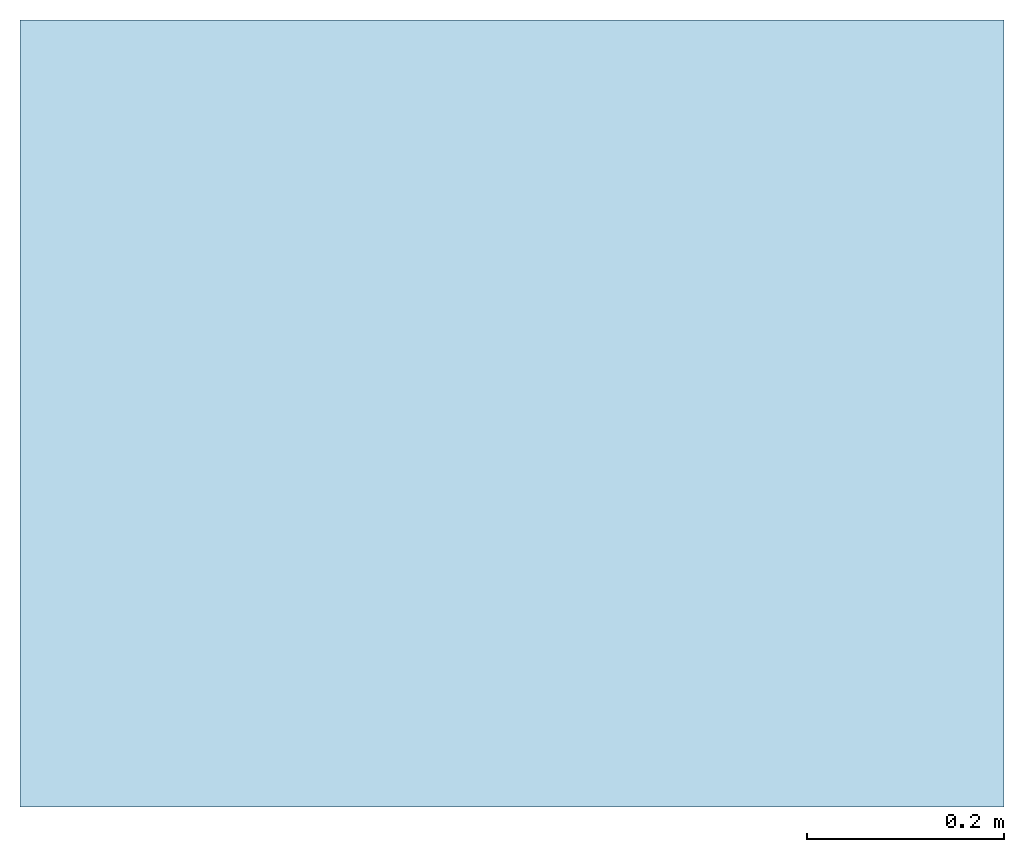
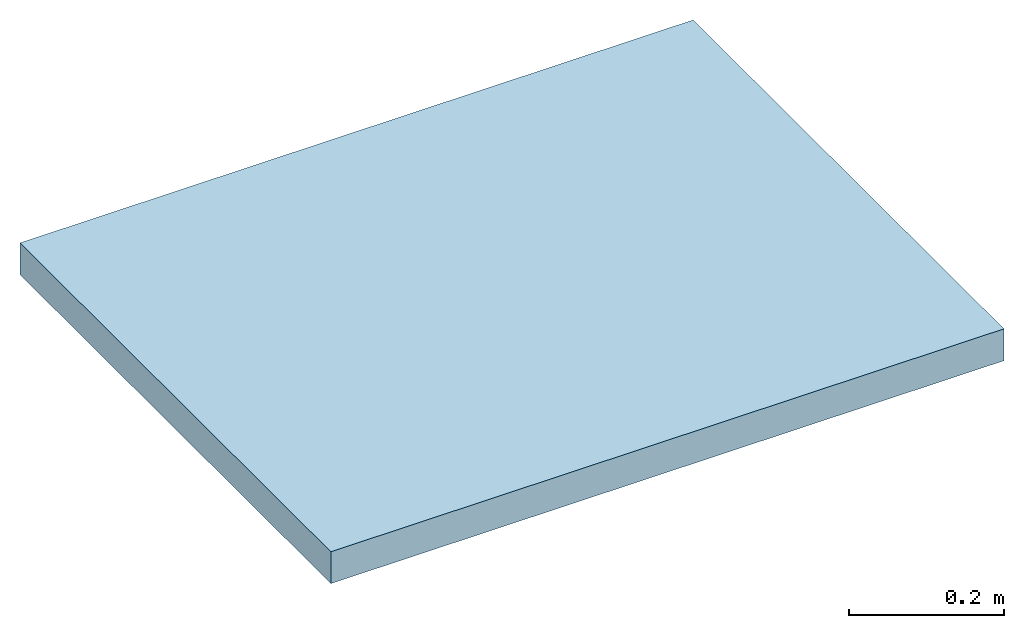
# One storey: 1 slab.
"""IFC2X3 building model written with IfcOpenShell, lengths in millimetres."""

import ifcopenshell
import ifcopenshell.guid

model = None  # the IFC model being written
_history = None  # IfcOwnerHistory: only IFC2X3 demands one
_inside = {}  # id of a spatial element -> (the spatial element, [elements in it])
_under = {}  # id of a project, library or spatial element -> (it, [spatial elements below it])
_declared = {}  # id of a project -> (the project, [libraries it declares])
_typed = {}  # id of a type object -> (the type object, [elements of that type])
_made_of = {}  # id of a material, layer set ... -> (it, [elements and type objects made of it])


def new_model(schema):
    """Start an empty IFC model of exactly this schema.

    Asked for "IFC4X3", IfcOpenShell would pick the latest addendum, in which some entities
    have other attributes; the version numbers below select the first issue.
    IFC2X3 requires an IfcOwnerHistory on every rooted entity: one is made here for all.
    """
    global model, _history
    if schema == "IFC4X3":
        model = ifcopenshell.file(schema_version=(4, 3, 0, 0))
    else:
        model = ifcopenshell.file(schema=schema)
    _inside.clear()
    _under.clear()
    _declared.clear()
    _typed.clear()
    _made_of.clear()
    _history = None
    if model.schema == "IFC2X3":
        org = make("IfcOrganization", Name="unknown")
        user = make(
            "IfcPersonAndOrganization",
            ThePerson=make("IfcPerson", FamilyName="unknown"),
            TheOrganization=org,
        )
        app = make(
            "IfcApplication",
            ApplicationDeveloper=org,
            Version="unknown",
            ApplicationFullName="unknown",
            ApplicationIdentifier="unknown",
        )
        _history = make(
            "IfcOwnerHistory",
            OwningUser=user,
            OwningApplication=app,
            ChangeAction="ADDED",
            CreationDate=0,
        )
    return model


def make(cls, **values):
    """One entity of the class cls with the attributes given. An attribute that is None is left unset."""
    return model.create_entity(
        cls, **{name: value for name, value in values.items() if value is not None}
    )


def entity(cls, *values):
    """Any entity or typed value of the class cls, its attributes in the order of the schema. None: left unset."""
    e = model.create_entity(cls)
    for i, value in enumerate(values):
        if value is not None:
            e[i] = value
    return e


def rooted(cls, **values):
    """An entity with a GlobalId (a new one), such as an element, a storey or a relation."""
    return make(cls, GlobalId=ifcopenshell.guid.new(), OwnerHistory=_history, **values)


def si_unit(unit_type, name, prefix=None):
    """IfcSIUnit, for example si_unit("LENGTHUNIT", "METRE", prefix="MILLI")."""
    return make("IfcSIUnit", UnitType=unit_type, Prefix=prefix, Name=name)


def converted_unit(unit_type, name, factor, base, dimensions=None, offset=None):
    """IfcConversionBasedUnit, such as the inch: factor (a typed value) times the base unit."""
    return make(
        "IfcConversionBasedUnit"
        if offset is None
        else "IfcConversionBasedUnitWithOffset",
        ConversionOffset=offset,
        Dimensions=None
        if dimensions is None
        else entity("IfcDimensionalExponents", *dimensions),
        UnitType=unit_type,
        Name=name,
        ConversionFactor=make(
            "IfcMeasureWithUnit", ValueComponent=factor, UnitComponent=base
        ),
    )


def derived_unit(unit_type, elements):
    """IfcDerivedUnit: a product of units, each with its exponent."""
    return make(
        "IfcDerivedUnit",
        Elements=[
            make("IfcDerivedUnitElement", Unit=unit, Exponent=power)
            for unit, power in elements
        ],
        UnitType=unit_type,
    )


def assignment(units):
    """IfcUnitAssignment: the units of a project."""
    return None if units is None else make("IfcUnitAssignment", Units=units)


def point(xyz):
    """IfcCartesianPoint."""
    return None if xyz is None else make("IfcCartesianPoint", Coordinates=xyz)


def direction(xyz):
    """IfcDirection."""
    return None if xyz is None else make("IfcDirection", DirectionRatios=xyz)


def frame(location, z_axis=None, x_axis=None):
    """IfcAxis2Placement3D, a coordinate frame: its origin and axes. An axis left out is left unset."""
    return make(
        "IfcAxis2Placement3D",
        Location=point(location),
        Axis=direction(z_axis),
        RefDirection=direction(x_axis),
    )


def frame_2d(location, x_axis=None):
    """IfcAxis2Placement2D, a coordinate frame in the plane: its origin and x axis."""
    return make(
        "IfcAxis2Placement2D", Location=point(location), RefDirection=direction(x_axis)
    )


def origin():
    """The frame at (0, 0, 0) with its axes left unset."""
    return frame((0.0, 0.0, 0.0))


def origin_2d_with_axis():
    """The frame at (0, 0) in the plane with the x axis (1, 0) written out."""
    return frame_2d((0.0, 0.0), x_axis=(1.0, 0.0))


def place(relative_to, where):
    """IfcLocalPlacement: puts the frame where relative to a parent placement (None: the world)."""
    return make(
        "IfcLocalPlacement", PlacementRelTo=relative_to, RelativePlacement=where
    )


def context(
    kind, dimensions, precision=None, world=None, true_north=None, identifier=None
):
    """IfcGeometricRepresentationContext, for example the 3D "Model" context."""
    return make(
        "IfcGeometricRepresentationContext",
        ContextIdentifier=identifier,
        ContextType=kind,
        CoordinateSpaceDimension=dimensions,
        Precision=precision,
        WorldCoordinateSystem=world,
        TrueNorth=true_north,
    )


def subcontext(parent, identifier, kind, view, scale=None):
    """IfcGeometricRepresentationSubContext, for example "Body" below "Model"."""
    return make(
        "IfcGeometricRepresentationSubContext",
        ContextIdentifier=identifier,
        ContextType=kind,
        ParentContext=parent,
        TargetScale=scale,
        TargetView=view,
    )


def project(units=None, contexts=None):
    """IfcProject with its units and contexts."""
    return rooted(
        "IfcProject",
        Name="project",
        RepresentationContexts=contexts,
        UnitsInContext=assignment(units),
    )


def spatial(cls, under=None, at=None, **own):
    """A site, building, storey or space (cls), placed at a placement, below another one or the project."""
    s = rooted(cls, ObjectPlacement=at, **own)
    if under is not None:
        _under.setdefault(under.id(), (under, []))[1].append(s)
    return s


def profile(cls, at=None, kind="AREA", **sizes):
    """A parametric profile (cls). Its sizes go by their IFC names, for example OverallWidth=200.0."""
    return make(cls, ProfileType=kind, Position=at, **sizes)


def rectangle(**sizes):
    """IfcRectangleProfileDef."""
    return profile("IfcRectangleProfileDef", **sizes)


def extrude(swept, where, along, depth):
    """IfcExtrudedAreaSolid: the profile swept, set in the frame where, extruded along a direction by depth."""
    return make(
        "IfcExtrudedAreaSolid",
        SweptArea=swept,
        Position=where,
        ExtrudedDirection=direction(along),
        Depth=depth,
    )


def shape(context_of_items, identifier, shape_type, items):
    """IfcShapeRepresentation: the items that make up one representation, for example the "Body"."""
    return make(
        "IfcShapeRepresentation",
        ContextOfItems=context_of_items,
        RepresentationIdentifier=identifier,
        RepresentationType=shape_type,
        Items=items,
    )


def material(Name=None, Category=None):
    """IfcMaterial."""
    return make("IfcMaterial", Name=Name, Category=Category)


def layer(
    of_material, thickness, ventilated=None, Name=None, Category=None, Priority=None
):
    """IfcMaterialLayer: one layer of a wall or slab, of a material (None: an air gap)."""
    return make(
        "IfcMaterialLayer",
        Material=of_material,
        LayerThickness=thickness,
        IsVentilated=ventilated,
        Name=Name,
        Category=Category,
        Priority=Priority,
    )


def layer_set(layers, Name=None):
    """IfcMaterialLayerSet."""
    return make("IfcMaterialLayerSet", MaterialLayers=layers, LayerSetName=Name)


def layer_usage(for_layer_set, set_direction, sense, offset, extent=None):
    """IfcMaterialLayerSetUsage: how a layer set lies in its element."""
    return make(
        "IfcMaterialLayerSetUsage",
        ForLayerSet=for_layer_set,
        LayerSetDirection=set_direction,
        DirectionSense=sense,
        OffsetFromReferenceLine=offset,
        ReferenceExtent=extent,
    )


def made_of(thing, what):
    """Note that an element or type object is made of a material, layer set ...; save() writes the relation."""
    if what is not None:
        _made_of.setdefault(what.id(), (what, []))[1].append(thing)
    return thing


def element(
    cls,
    number,
    at=None,
    inside=None,
    cuts=None,
    type_object=None,
    material=None,
    context=None,
    identifier="Body",
    shape_type=None,
    held_by="IfcProductDefinitionShape",
    body=None,
    shapes=None,
    **own,
):
    """One element of the class cls, such as IfcWall. Its Tag is "e" and its number.

    at: its placement. inside: the storey or other place that contains it. cuts: it is an
    opening in that element (IfcRelVoidsElement). A single representation is given by context,
    identifier, shape_type and body (its items); several are given by shapes. held_by: the class
    of the entity that holds the representations. save() writes the other relations.
    """
    e = rooted(cls, Tag="e%d" % number, ObjectPlacement=at, **own)
    if body is not None:
        shapes = [shape(context, identifier, shape_type, body)]
    if shapes is not None:
        e.Representation = make(held_by, Representations=shapes)
    if inside is not None:
        _inside.setdefault(inside.id(), (inside, []))[1].append(e)
    if cuts is not None:
        rooted(
            "IfcRelVoidsElement", RelatingBuildingElement=cuts, RelatedOpeningElement=e
        )
    if type_object is not None:
        _typed.setdefault(type_object.id(), (type_object, []))[1].append(e)
    return made_of(e, material)


def aggregate(whole, parts):
    """IfcRelAggregates: a whole, such as a stair, and the parts it consists of."""
    return rooted("IfcRelAggregates", RelatingObject=whole, RelatedObjects=parts)


def save(model, path):
    """Write the relations noted so far, then the file.

    IfcRelAggregates (storeys below a building ...), IfcRelContainedInSpatialStructure (elements
    in a storey), IfcRelDefinesByType, IfcRelAssociatesMaterial and IfcRelDeclares: one each for
    every whole, place, type object, material and project.
    """
    for whole, parts in _under.values():
        aggregate(whole, parts)
    for where, things in _inside.values():
        rooted(
            "IfcRelContainedInSpatialStructure",
            RelatedElements=things,
            RelatingStructure=where,
        )
    for kind, things in _typed.values():
        rooted("IfcRelDefinesByType", RelatedObjects=things, RelatingType=kind)
    for what, things in _made_of.values():
        rooted("IfcRelAssociatesMaterial", RelatedObjects=things, RelatingMaterial=what)
    for by, libraries in _declared.values():
        rooted("IfcRelDeclares", RelatingContext=by, RelatedDefinitions=libraries)
    model.write(path)


model = new_model("IFC2X3")

# Units and contexts
model_context = context("Model", 3, precision=0.01, world=origin(), true_north=direction((6.12303176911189e-17, 1.0)))
context_of_model = context(None, 3, precision=0.01, world=origin(), true_north=direction((6.12303176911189e-17, 1.0)))
body_context = subcontext(model_context, "Body", "Model", "MODEL_VIEW")
ifc_project = project(units=[si_unit("LENGTHUNIT", "METRE", prefix="MILLI"), si_unit("AREAUNIT", "SQUARE_METRE"), si_unit("VOLUMEUNIT", "CUBIC_METRE"), converted_unit("PLANEANGLEUNIT", "DEGREE", entity("IfcRatioMeasure", 0.0174532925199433), si_unit("PLANEANGLEUNIT", "RADIAN"), dimensions=[0, 0, 0, 0, 0, 0, 0]), si_unit("MASSUNIT", "GRAM", prefix="KILO"), si_unit("TIMEUNIT", "SECOND"), si_unit("FREQUENCYUNIT", "HERTZ"), si_unit("THERMODYNAMICTEMPERATUREUNIT", "DEGREE_CELSIUS"), derived_unit("THERMALTRANSMITTANCEUNIT", [(si_unit("MASSUNIT", "GRAM", prefix="KILO"), 1), (si_unit("THERMODYNAMICTEMPERATUREUNIT", "KELVIN"), -1), (si_unit("TIMEUNIT", "SECOND"), -3)]), derived_unit("VOLUMETRICFLOWRATEUNIT", [(si_unit("LENGTHUNIT", "METRE"), 3), (si_unit("TIMEUNIT", "SECOND"), -1)]), si_unit("ELECTRICCURRENTUNIT", "AMPERE"), si_unit("ELECTRICVOLTAGEUNIT", "VOLT"), si_unit("POWERUNIT", "WATT"), si_unit("FORCEUNIT", "NEWTON", prefix="KILO"), si_unit("ILLUMINANCEUNIT", "LUX"), si_unit("LUMINOUSFLUXUNIT", "LUMEN"), si_unit("LUMINOUSINTENSITYUNIT", "CANDELA"), si_unit("PRESSUREUNIT", "PASCAL")], contexts=[model_context, context_of_model])

# Site, building, storey
site_placement = place(None, origin())
site = spatial("IfcSite", under=ifc_project, at=site_placement, Name="Default", CompositionType="ELEMENT")
building_placement = place(site_placement, origin())
building = spatial("IfcBuilding", under=site, at=building_placement, CompositionType="ELEMENT")
storey_placement = place(building_placement, origin())
storey = spatial("IfcBuildingStorey", under=building, at=storey_placement, Name="Уровень 1", CompositionType="ELEMENT", Elevation=0.0)

# Slab
ifc_material = material(Name="ROLS_ISOMARKET_Плита ENERGOFLOOR 50/1-0,8 DEO-dm")
ifc_layer = layer(ifc_material, 50.0)
ifc_layer_set = layer_set([ifc_layer], Name="Перекрытие:ROLS_ISOMARKET_Плита ENERGOFLOOR 50/1-0,8 DEO-dm")
ifc_layer_usage = layer_usage(ifc_layer_set, "AXIS3", "POSITIVE", 0.0)
slab_placement = place(storey_placement, origin())
element("IfcSlab", 1, at=slab_placement, inside=storey, material=ifc_layer_usage, Name="Перекрытие:ROLS_ISOMARKET_Плита ENERGOFLOOR 50/1-0,8 DEO-dm", ObjectType="Перекрытие:ROLS_ISOMARKET_Плита ENERGOFLOOR 50/1-0,8 DEO-dm", PredefinedType="FLOOR", context=body_context, shape_type="SweptSolid", body=[
    extrude(rectangle(XDim=800.0, YDim=1000.0, at=origin_2d_with_axis()), frame((-14615.4270794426, 5702.16062637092, 0.0), z_axis=(0.0, 0.0, -1.0), x_axis=(0.0, 1.0, 0.0)), (0.0, 0.0, 1.0), 50.0),
])

save(model, "model.ifc")
